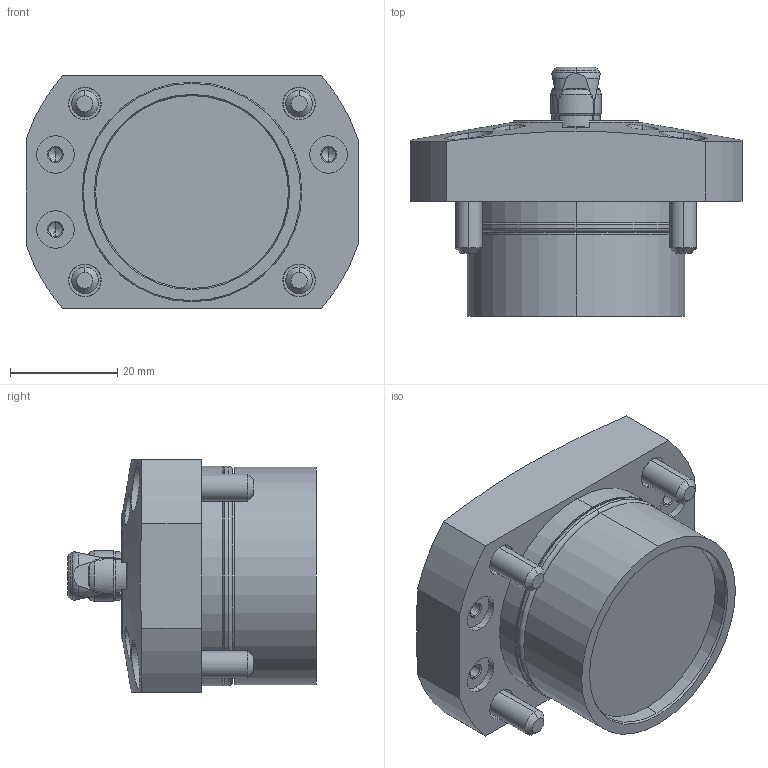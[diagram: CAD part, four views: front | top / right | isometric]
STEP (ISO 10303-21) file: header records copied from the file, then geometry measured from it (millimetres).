
FILE_DESCRIPTION (( 'STEP AP203' ), '1' );
FILE_NAME ('SFH2100_N.STEP', '2010-11-03T23:11:08', ( ' ' ), ( ' ' ), 'SwSTEP 2.0', 'SolidWorks 2010', '' );
FILE_SCHEMA (( 'CONFIG_CONTROL_DESIGN' ));
Length unit declared in the file: millimetre
Products named in the file (7): SFH2100_N; 6妏寠晅无倌_M5_16; SFH2100-N_套菁轤礁诎蔬晅; SFH2_钾堇轤O剌皋晅; 冇10_郫霓; 6妏寠晅无倌_M3_10; φ10_ｽﾘｰﾌﾞ-N
Assembly tree (12 placements, depth 2):
  SFH2100_N
    SFH2100-N_套菁轤礁诎蔬晅
    冇10_郫霓
    6妏寠晅无倌_M5_16  x4
    SFH2_钾堇轤O剌皋晅
    6妏寠晅无倌_M3_10  x4
    φ10_ｽﾘｰﾌﾞ-N
Bounding box: 62 x 46.5 x 43.5 mm (x, y, z)
Volume: 58608.3 mm3; surface area: 20917.4 mm2
Topology: 16 solids, 16 shells, 478 faces, 971 edges, 536 vertices
Faces by surface type: plane 187, cone 156, cylinder 118, torus 17
Entity records: 9655 total; most frequent: CARTESIAN_POINT 2320, DIRECTION 1434, ORIENTED_EDGE 1270, EDGE_CURVE 635, AXIS2_PLACEMENT_3D 598, VERTEX_POINT 386, EDGE_LOOP 333, ADVANCED_FACE 292
